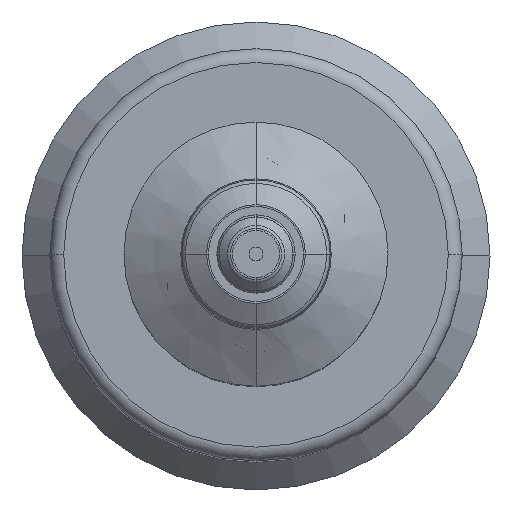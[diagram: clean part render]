
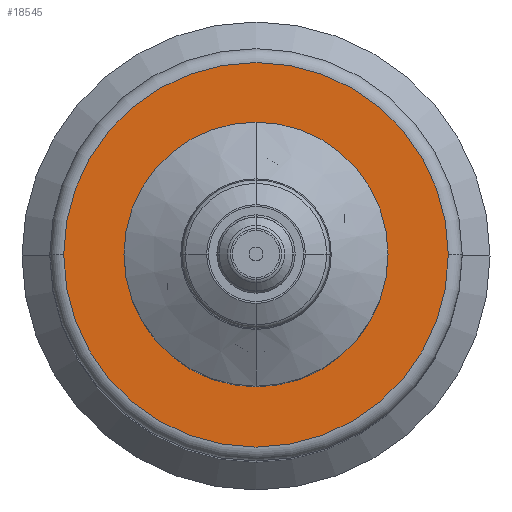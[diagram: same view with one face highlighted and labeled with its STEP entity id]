
A CAD part, top view. The second image highlights one B-rep face of the part: STEP entity #18545.
In plain terms, the highlighted planar face has unit normal (0, 0, 1).
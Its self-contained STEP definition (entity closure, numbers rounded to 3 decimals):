
#1381 = VERTEX_POINT ( 'NONE', #17044 ) ;
#1415 = VERTEX_POINT ( 'NONE', #17078 ) ;
#1416 = VERTEX_POINT ( 'NONE', #17079 ) ;
#1790 = EDGE_CURVE ( 'NONE', #18834, #1381, #16678, .T. ) ;
#2324 = CARTESIAN_POINT ( 'NONE',  ( 41.5, 0., 195. ) ) ;
#3460 = EDGE_LOOP ( 'NONE', ( #7630, #7178 ) ) ;
#3461 = EDGE_LOOP ( 'NONE', ( #7179, #7180 ) ) ;
#5747 = FACE_BOUND ( 'NONE', #3460, .T. ) ;
#5749 = FACE_OUTER_BOUND ( 'NONE', #3461, .T. ) ;
#7178 = ORIENTED_EDGE ( 'NONE', *, *, #8772, .F. ) ;
#7179 = ORIENTED_EDGE ( 'NONE', *, *, #1790, .F. ) ;
#7180 = ORIENTED_EDGE ( 'NONE', *, *, #8798, .F. ) ;
#7630 = ORIENTED_EDGE ( 'NONE', *, *, #8768, .F. ) ;
#8768 = EDGE_CURVE ( 'NONE', #1415, #1416, #16738, .T. ) ;
#8772 = EDGE_CURVE ( 'NONE', #1416, #1415, #16743, .T. ) ;
#8798 = EDGE_CURVE ( 'NONE', #1381, #18834, #16760, .T. ) ;
#15767 = PLANE ( 'NONE',  #19048 ) ;
#15768 = CARTESIAN_POINT ( 'NONE',  ( 0., 0., 195. ) ) ;
#15769 = DIRECTION ( 'NONE',  ( 0., 0., -1. ) ) ;
#15770 = DIRECTION ( 'NONE',  ( 1., 0., 0. ) ) ;
#16454 = CARTESIAN_POINT ( 'NONE',  ( 0., 0., 195. ) ) ;
#16455 = DIRECTION ( 'NONE',  ( 0., 0., -1. ) ) ;
#16456 = DIRECTION ( 'NONE',  ( 1., 0., 0. ) ) ;
#16567 = CARTESIAN_POINT ( 'NONE',  ( 0., 0., 195. ) ) ;
#16568 = DIRECTION ( 'NONE',  ( 0., 0., 1. ) ) ;
#16569 = DIRECTION ( 'NONE',  ( 1., 0., 0. ) ) ;
#16577 = CARTESIAN_POINT ( 'NONE',  ( 0., 0., 195. ) ) ;
#16578 = DIRECTION ( 'NONE',  ( 0., 0., 1. ) ) ;
#16579 = DIRECTION ( 'NONE',  ( 1., 0., 0. ) ) ;
#16678 = CIRCLE ( 'NONE', #18315, 41.5 ) ;
#16738 = CIRCLE ( 'NONE', #18340, 28.5 ) ;
#16743 = CIRCLE ( 'NONE', #18342, 28.5 ) ;
#16760 = CIRCLE ( 'NONE', #18359, 41.5 ) ;
#17044 = CARTESIAN_POINT ( 'NONE',  ( -41.5, 0., 195. ) ) ;
#17078 = CARTESIAN_POINT ( 'NONE',  ( -28.5, 0., 195. ) ) ;
#17079 = CARTESIAN_POINT ( 'NONE',  ( 28.5, 0., 195. ) ) ;
#17272 = CARTESIAN_POINT ( 'NONE',  ( 0., 0., 195. ) ) ;
#17273 = DIRECTION ( 'NONE',  ( 0., 0., -1. ) ) ;
#17274 = DIRECTION ( 'NONE',  ( 1., 0., 0. ) ) ;
#18315 = AXIS2_PLACEMENT_3D ( 'NONE', #16454, #16455, #16456 ) ;
#18340 = AXIS2_PLACEMENT_3D ( 'NONE', #16567, #16568, #16569 ) ;
#18342 = AXIS2_PLACEMENT_3D ( 'NONE', #16577, #16578, #16579 ) ;
#18359 = AXIS2_PLACEMENT_3D ( 'NONE', #17272, #17273, #17274 ) ;
#18545 = ADVANCED_FACE ( 'NONE', ( #5747, #5749 ), #15767, .F. ) ;
#18834 = VERTEX_POINT ( 'NONE', #2324 ) ;
#19048 = AXIS2_PLACEMENT_3D ( 'NONE', #15768, #15769, #15770 ) ;
